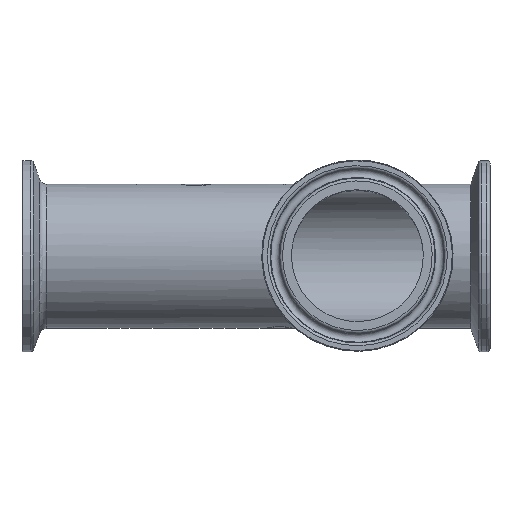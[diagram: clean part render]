
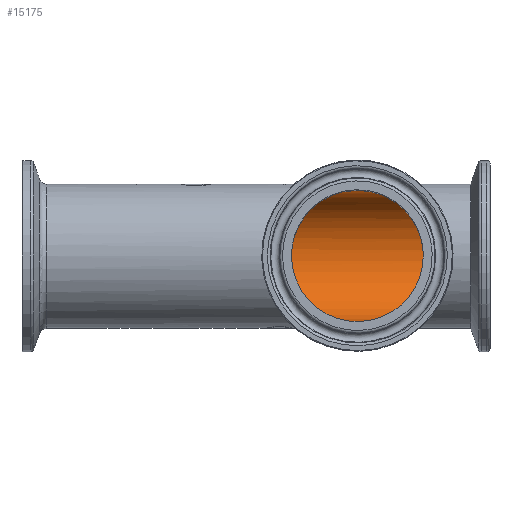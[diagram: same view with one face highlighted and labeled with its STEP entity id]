
A CAD part, top view. The second image highlights one B-rep face of the part: STEP entity #15175.
In plain terms, the highlighted cylindrical face has radius 17.4 mm (diameter 34.8 mm), a full revolution.
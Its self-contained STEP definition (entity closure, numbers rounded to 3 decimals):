
#572=ELLIPSE('',#15975,24.607,17.4);
#573=ELLIPSE('',#15976,24.607,17.4);
#2275=CIRCLE('',#15979,17.4);
#2276=CIRCLE('',#15981,17.4);
#2916=ORIENTED_EDGE('',*,*,#6150,.F.);
#2917=ORIENTED_EDGE('',*,*,#6147,.T.);
#2918=ORIENTED_EDGE('',*,*,#6148,.T.);
#2919=ORIENTED_EDGE('',*,*,#6151,.F.);
#6147=EDGE_CURVE('',#7767,#7768,#572,.T.);
#6148=EDGE_CURVE('',#7768,#7767,#573,.F.);
#6150=EDGE_CURVE('',#7770,#7770,#2275,.T.);
#6151=EDGE_CURVE('',#7771,#7771,#2276,.T.);
#7767=VERTEX_POINT('',#20650);
#7768=VERTEX_POINT('',#20651);
#7770=VERTEX_POINT('',#20657);
#7771=VERTEX_POINT('',#20660);
#9004=EDGE_LOOP('',(#2916));
#9005=EDGE_LOOP('',(#2917,#2918));
#9006=EDGE_LOOP('',(#2919));
#9790=FACE_BOUND('',#9004,.T.);
#9791=FACE_BOUND('',#9005,.T.);
#9792=FACE_BOUND('',#9006,.T.);
#10501=CYLINDRICAL_SURFACE('',#15980,17.4);
#15175=ADVANCED_FACE('',(#9790,#9791,#9792),#10501,.F.);
#15975=AXIS2_PLACEMENT_3D('',#20649,#17007,#17008);
#15976=AXIS2_PLACEMENT_3D('',#20652,#17009,#17010);
#15979=AXIS2_PLACEMENT_3D('',#20656,#17015,#17016);
#15980=AXIS2_PLACEMENT_3D('',#20658,#17017,#17018);
#15981=AXIS2_PLACEMENT_3D('',#20659,#17019,#17020);
#17007=DIRECTION('',(0.707,0.,0.707));
#17008=DIRECTION('',(0.707,0.,-0.707));
#17009=DIRECTION('',(0.707,0.,-0.707));
#17010=DIRECTION('',(0.707,0.,0.707));
#17015=DIRECTION('',(-1.,0.,0.));
#17016=DIRECTION('',(0.,0.,1.));
#17017=DIRECTION('',(1.,0.,0.));
#17018=DIRECTION('',(0.,-0.954,-0.3));
#17019=DIRECTION('',(1.,0.,0.));
#17020=DIRECTION('',(0.,-0.954,-0.3));
#20649=CARTESIAN_POINT('',(0.,0.,
0.));
#20650=CARTESIAN_POINT('',(0.,17.4,0.));
#20651=CARTESIAN_POINT('',(0.,-17.4,0.));
#20652=CARTESIAN_POINT('',(0.,0.,
0.));
#20656=CARTESIAN_POINT('',(35.,0.,0.));
#20657=CARTESIAN_POINT('',(35.,0.,17.4));
#20658=CARTESIAN_POINT('',(-74.1,0.,0.));
#20659=CARTESIAN_POINT('',(-88.5,0.,0.));
#20660=CARTESIAN_POINT('',(-88.5,-16.599,-5.218));
